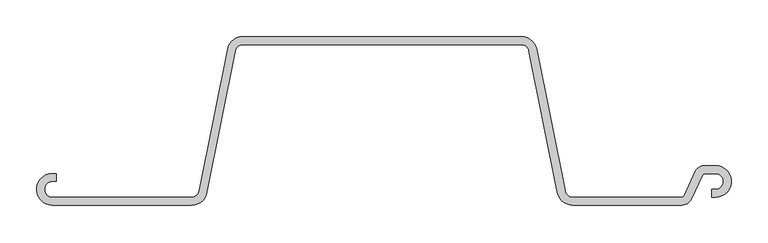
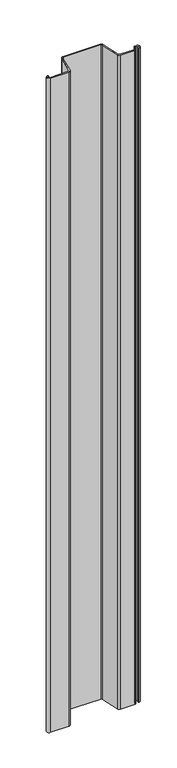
"""IFC4 building model written with IfcOpenShell, lengths in millimetres: proxy geometry, 鋼矢板10H型 : 鋼矢板10H型."""

from ifc_helpers import new_model, si_unit, point, frame, frame_2d, origin, place, context, project, spatial, polyline, circle_curve, trimmed, segment, composite_curve, outline, extrude, source, transform, mapped, element, save


def generic_models_f981eec5(model_context):
    return source(origin(), model_context, "Body", "SweptSolid", [
        extrude(outline(composite_curve([segment(trimmed(circle_curve(frame_2d((409.1972607, -101.1142857)), 13.8857143), [point((421.7819917, -106.9826421))], [point((409.1972607, -115.0))], False, "CARTESIAN"), True, "CONTINUOUS"), segment(polyline([(409.1972607, -115.0), (260.2008232, -115.0)]), True, "CONTINUOUS"), segment(trimmed(circle_curve(frame_2d((260.2008232, -93.4)), 21.6), [point((260.2008232, -115.0))], [point((239.0202806, -97.6361085))], False, "CARTESIAN"), True, "CONTINUOUS"), segment(polyline([(239.0202806, -97.6361085), (200.3894481, 95.5180543)]), True, "CONTINUOUS"), segment(trimmed(circle_curve(frame_2d((189.7991768, 93.4)), 10.8), [point((200.3894481, 95.5180543))], [point((189.7991768, 104.2))], True, "CARTESIAN"), True, "CONTINUOUS"), segment(polyline([(189.7991768, 104.2), (-189.7991768, 104.2)]), True, "CONTINUOUS"), segment(trimmed(circle_curve(frame_2d((-189.7991768, 93.4)), 10.8), [point((-189.7991768, 104.2))], [point((-200.3894481, 95.5180543))], True, "CARTESIAN"), True, "CONTINUOUS"), segment(polyline([(-200.3894481, 95.5180543), (-239.0202806, -97.6361085)]), True, "CONTINUOUS"), segment(trimmed(circle_curve(frame_2d((-260.2008232, -93.4)), 21.6), [point((-239.0202806, -97.6361085))], [point((-260.2008232, -115.0))], False, "CARTESIAN"), True, "CONTINUOUS"), segment(polyline([(-260.2008232, -115.0), (-450.0, -115.0)]), True, "CONTINUOUS"), segment(trimmed(circle_curve(frame_2d((-450.0, -93.4)), 21.6), [point((-450.0, -115.0))], [point((-450.0, -71.8))], False, "CARTESIAN"), True, "CONTINUOUS"), segment(polyline([(-450.0, -71.8), (-445.0, -71.8), (-445.0, -82.6), (-450.0, -82.6)]), True, "CONTINUOUS"), segment(trimmed(circle_curve(frame_2d((-450.0, -93.4)), 10.8), [point((-450.0, -82.6))], [point((-450.0, -104.2))], True, "CARTESIAN"), True, "CONTINUOUS"), segment(polyline([(-450.0, -104.2), (-260.2008232, -104.2)]), True, "CONTINUOUS"), segment(trimmed(circle_curve(frame_2d((-260.2008232, -93.4)), 10.8), [point((-260.2008232, -104.2))], [point((-249.6105519, -95.5180543))], True, "CARTESIAN"), True, "CONTINUOUS"), segment(polyline([(-249.6105519, -95.5180543), (-210.9797194, 97.6361085)]), True, "CONTINUOUS"), segment(trimmed(circle_curve(frame_2d((-189.7991768, 93.4)), 21.6), [point((-210.9797194, 97.6361085))], [point((-189.7991768, 115.0))], False, "CARTESIAN"), True, "CONTINUOUS"), segment(polyline([(-189.7991768, 115.0), (189.7991768, 115.0)]), True, "CONTINUOUS"), segment(trimmed(circle_curve(frame_2d((189.7991768, 93.4)), 21.6), [point((189.7991768, 115.0))], [point((210.9797194, 97.6361085))], False, "CARTESIAN"), True, "CONTINUOUS"), segment(polyline([(210.9797194, 97.6361085), (249.6105519, -95.5180543)]), True, "CONTINUOUS"), segment(trimmed(circle_curve(frame_2d((260.2008232, -93.4)), 10.8), [point((249.6105519, -95.5180543))], [point((260.2008232, -104.2))], True, "CARTESIAN"), True, "CONTINUOUS"), segment(polyline([(260.2008232, -104.2), (409.1972607, -104.2)]), True, "CONTINUOUS"), segment(trimmed(circle_curve(frame_2d((409.1972607, -101.1142857)), 3.0857143), [point((409.1972607, -104.2))], [point((411.9938676, -102.4183649))], True, "CARTESIAN"), True, "CONTINUOUS"), segment(polyline([(411.9938676, -102.4183649), (427.569013, -69.0173579)]), True, "CONTINUOUS"), segment(trimmed(circle_curve(frame_2d((440.153744, -74.8857143)), 13.8857143), [point((427.569013, -69.0173579))], [point((440.153744, -61.0))], False, "CARTESIAN"), True, "CONTINUOUS"), segment(polyline([(440.153744, -61.0), (455.0, -61.0)]), True, "CONTINUOUS"), segment(trimmed(circle_curve(frame_2d((455.0, -82.6)), 21.6), [point((455.0, -61.0))], [point((455.0, -104.2))], False, "CARTESIAN"), True, "CONTINUOUS"), segment(polyline([(455.0, -104.2), (450.0, -104.2), (450.0, -93.4), (455.0, -93.4)]), True, "CONTINUOUS"), segment(trimmed(circle_curve(frame_2d((455.0, -82.6)), 10.8), [point((455.0, -93.4))], [point((455.0, -71.8))], True, "CARTESIAN"), True, "CONTINUOUS"), segment(polyline([(455.0, -71.8), (440.153744, -71.8)]), True, "CONTINUOUS"), segment(trimmed(circle_curve(frame_2d((440.153744, -74.8857143)), 3.0857143), [point((440.153744, -71.8))], [point((437.3571371, -73.5816351))], True, "CARTESIAN"), True, "CONTINUOUS"), segment(polyline([(437.3571371, -73.5816351), (421.7819917, -106.9826421)]), True, "CONTINUOUS")], self_intersect=False)), frame((0.0, 0.0, -7000.0), z_axis=(0.0, 0.0, 1.0), x_axis=(1.0, 0.0, 0.0)), (0.0, 0.0, 1.0), 7000.0),
    ])


if __name__ == "__main__":
    model = new_model("IFC4")
    model_context = context("Model", 3, world=origin())
    ifc_project = project(units=[si_unit("LENGTHUNIT", "METRE", prefix="MILLI")], contexts=[model_context])
    site = spatial("IfcSite", under=ifc_project)
    building = spatial("IfcBuilding", under=site)
    placement = place(None, origin())
    generic_models_shape = generic_models_f981eec5(model_context)
    element("IfcBuildingElementProxy", 1, Name="鋼矢板10H型 : 鋼矢板10H型", ObjectType="鋼矢板10H型 : 鋼矢板10H型", at=placement, inside=building, context=model_context, shape_type="MappedRepresentation", body=[
        mapped(generic_models_shape, transform((0.0, 0.0, 0.0), x_axis=(1.0, 0.0, 0.0), y_axis=(0.0, 1.0, 0.0), z_axis=(0.0, 0.0, 1.0))),
    ])
    save(model, "model.ifc")
